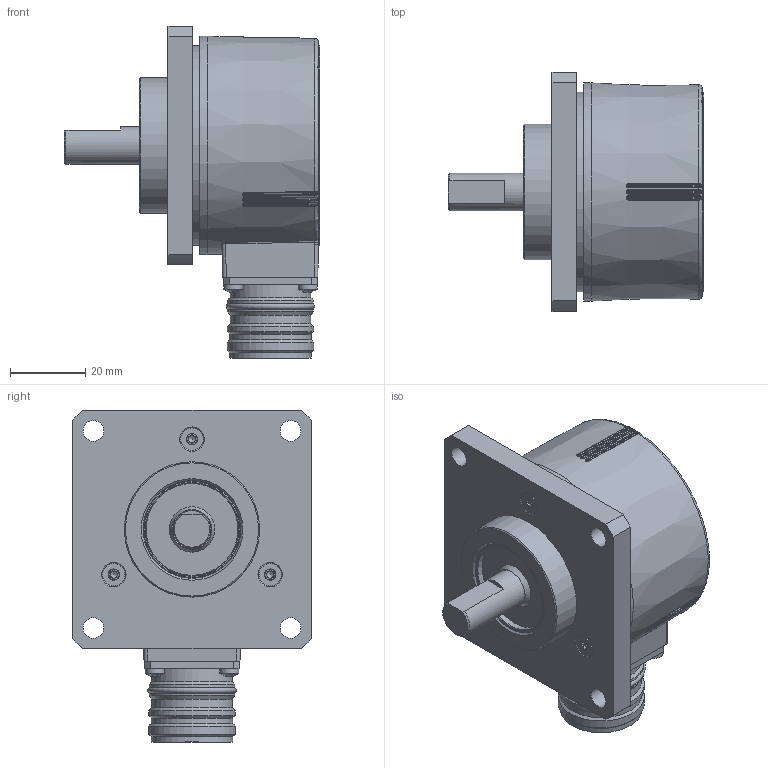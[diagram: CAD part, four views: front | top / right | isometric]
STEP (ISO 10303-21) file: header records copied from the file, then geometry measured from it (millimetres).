
FILE_DESCRIPTION( ( 'Unknown' ), '1' );
FILE_NAME( '//emea.baumernet.org/de05d/RD/caddy/k/GESAMT/EIL580/EIL580/3D/STEP/MarCom/EIL580-SQ10.7Fx.xxxxx.A.stp', 'Unknown', ( 'Unknown' ), ( 'Unknown' ), 'PSStep 19.0.9', 'Unknown', ' ' );
FILE_SCHEMA( ( 'AUTOMOTIVE_DESIGN { 1 0 10303 214 1 1 1 1 }' ) );
Length unit declared in the file: millimetre
Products named in the file (3): Assem1; 1_185; 2_58
Assembly tree (2 placements, depth 2):
  Assem1
    1_185
    2_58
Bounding box: 68 x 63.5 x 88.25 mm (x, y, z)
Volume: 129725 mm3; surface area: 28786.3 mm2
Topology: 2 solids, 25 shells, 740 faces, 1732 edges, 1106 vertices
Faces by surface type: plane 243, cylinder 192, extrusion 108, bspline 76, cone 62, torus 39, sphere 18, revolution 2
Full cylindrical faces by diameter (mm): 1 x12, 1.1 x12, 1.5 x1, 2.46 x3, 2.5 x4, 2.7 x4, 3 x6, 3.24 x6, 3.4 x3, 5 x4, 5.5 x4, 9.8 x1, 10 x2, 11.262 x1, 11.704 x1, 11.8 x1, 12.8 x1, 13.138 x1, 16.2 x1, 17.1 x1, 17.3 x1, 20 x1, 20.5 x1, 21.4 x2, 21.74 x2, 22.85 x2, 23 x2, 23.446 x1, 24.927 x1, 25.558 x1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
Entity records: 63146 total; most frequent: CARTESIAN_POINT 42064, ORIENTED_EDGE 2984, DIRECTION 2721, EDGE_CURVE 1492, AXIS2_PLACEMENT_3D 1075, VERTEX_POINT 1071, EDGE_LOOP 1020, FACE_OUTER_BOUND 857
